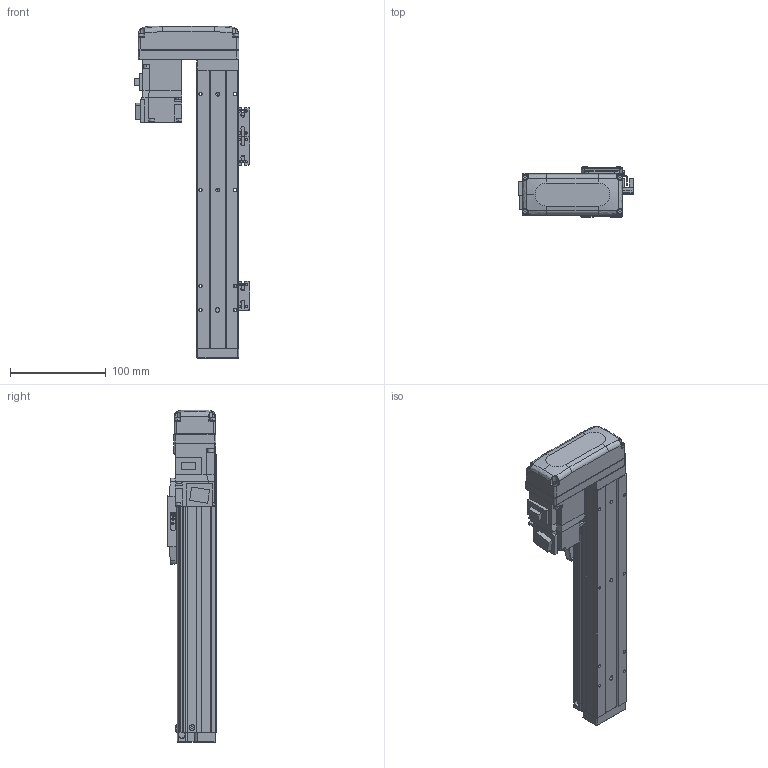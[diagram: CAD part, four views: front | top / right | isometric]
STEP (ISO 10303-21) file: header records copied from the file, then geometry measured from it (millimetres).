
FILE_DESCRIPTION (( 'STEP AP203' ), '1' );
FILE_NAME ('GTH4-150-BR-M05-C4.STEP', '2024-01-05T01:05:51', ( '' ), ( '' ), 'SwSTEP 2.0', 'SolidWorks 2020', '' );
FILE_SCHEMA (( 'CONFIG_CONTROL_DESIGN' ));
Length unit declared in the file: millimetre
Products named in the file (19): BTH40-006; BTH40-004; BTH40-003; BTH50-026; BTH-M3X5X6; GTH4-150-BR-M05-C4; BTH50-028; GBT96.1-2002 3×0.8; BTH50-023; BTH40-013; GBT 70.3-M3℅6; BTH40-022; BTH50-024; BTH40-027-1; HG-KR13; GBT 70.1-M2.5×6; BTH40-001-50_BTH40-001-150; GBT 70.1-M3℅6; GBT70.1-2000 M3×16
Assembly tree (47 placements, depth 2):
  GTH4-150-BR-M05-C4
    BTH40-001-50_BTH40-001-150
    BTH40-003
    BTH40-006
    BTH-M3X5X6  x8
    GBT70.1-2000 M3×16  x4
    BTH50-028  x2
    BTH50-023  x3
    BTH50-024  x3
    GBT 70.1-M3℅6  x6
    GBT96.1-2002 3×0.8  x6
    BTH40-022
    GBT 70.1-M2.5×6  x2
    BTH40-004
    BTH40-013
    HG-KR13
    GBT 70.3-M3℅6  x4
    BTH40-027-1
    BTH50-026
Bounding box: 120 x 52 x 346 mm (x, y, z)
Volume: 762103.2 mm3; surface area: 156574.9 mm2
Topology: 49 solids, 49 shells, 1971 faces, 4623 edges, 2842 vertices
Faces by surface type: plane 1052, cylinder 483, cone 270, torus 128, bspline 34, sphere 4
Entity records: 39247 total; most frequent: CARTESIAN_POINT 7522, DIRECTION 6140, ORIENTED_EDGE 5892, EDGE_CURVE 2946, AXIS2_PLACEMENT_3D 2095, VECTOR 1950, LINE 1950, VERTEX_POINT 1829
